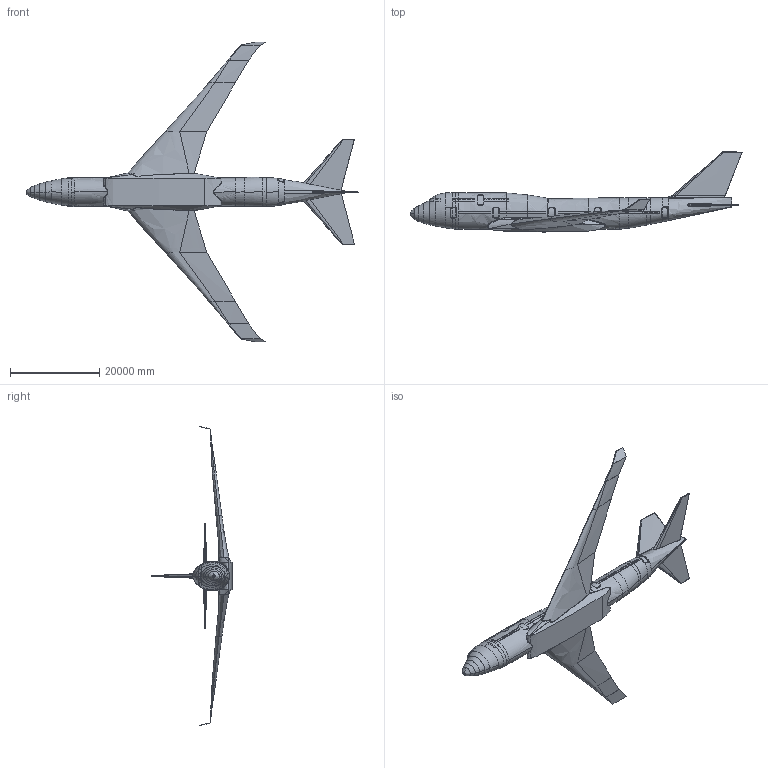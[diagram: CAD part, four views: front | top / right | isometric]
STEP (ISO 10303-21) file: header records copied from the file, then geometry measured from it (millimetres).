
FILE_DESCRIPTION (( 'STEP AP214' ), '1' );
FILE_NAME ('fuselage.STEP', '2025-11-01T20:24:42', ( '' ), ( '' ), 'SwSTEP 2.0', 'SolidWorks 2023', '' );
FILE_SCHEMA (( 'AUTOMOTIVE_DESIGN' ));
Length unit declared in the file: millimetre
Products named in the file (1): fuselage
Bounding box: 74280.5 x 17913.1 x 67080.08 mm (x, y, z)
Surface area: 4395534006.7 mm2 (no closed solid volume)
Topology: 0 solids, 200 shells, 1499 faces, 5390 edges, 4011 vertices
Faces by surface type: bspline 650, plane 421, cylinder 407, sphere 21
Entity records: 438482 total; most frequent: CARTESIAN_POINT 403582, ORIENTED_EDGE 8997, EDGE_CURVE 5328, B_SPLINE_CURVE_WITH_KNOTS 4270, VERTEX_POINT 4011, DIRECTION 2928, EDGE_LOOP 1678, ADVANCED_FACE 1500
